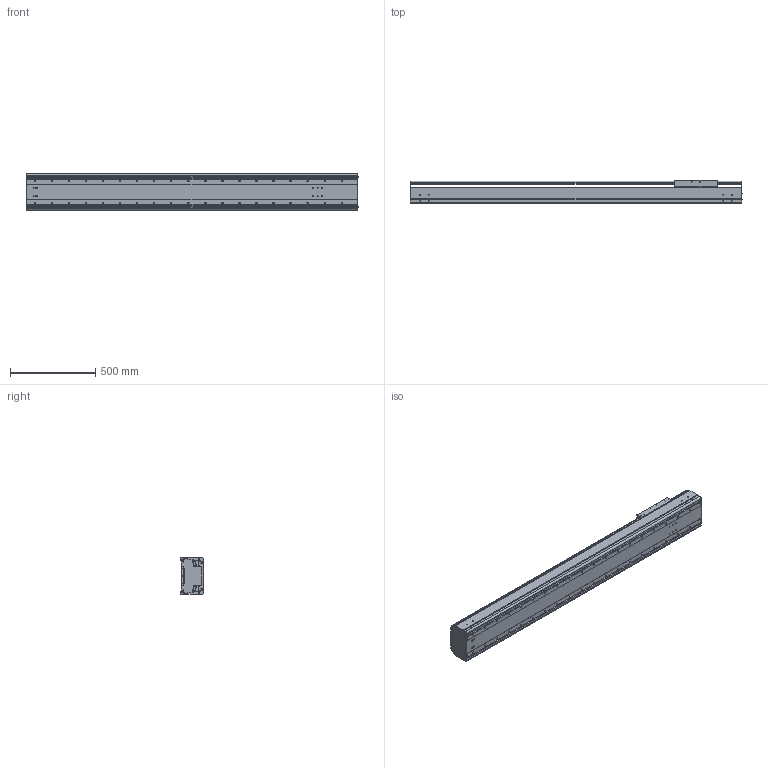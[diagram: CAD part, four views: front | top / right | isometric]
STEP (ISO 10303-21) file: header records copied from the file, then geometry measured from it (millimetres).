
FILE_DESCRIPTION((''),'2;1');
FILE_NAME('BE60G-ST-M_B-F0_IGS_PRT','2017-06-18T',(' '),(''),'PRO/ENGINEER BY PARAMETRIC TECHNOLOGY CORPORATION, 2015030','PRO/ENGINEER BY PARAMETRIC TECHNOLOGY CORPORATION, 2015030','');
FILE_SCHEMA(('CONFIG_CONTROL_DESIGN'));
Length unit declared in the file: millimetre
Products named in the file (1): BE60G-ST-M_B-F0_IGS_PRT
Bounding box: 1947.4 x 140 x 214 mm (x, y, z)
Volume: 15167525.2 mm3; surface area: 4052335.7 mm2
Topology: 2 solids, 168 shells, 1718 faces, 4830 edges, 3176 vertices
Faces by surface type: cylinder 904, plane 638, cone 128, sphere 24, torus 24
Entity records: 57702 total; most frequent: CARTESIAN_POINT 13300, DIRECTION 9302, ORIENTED_EDGE 8748, EDGE_CURVE 4702, AXIS2_PLACEMENT_3D 3493, VERTEX_POINT 3174, VECTOR 2316, LINE 2316
